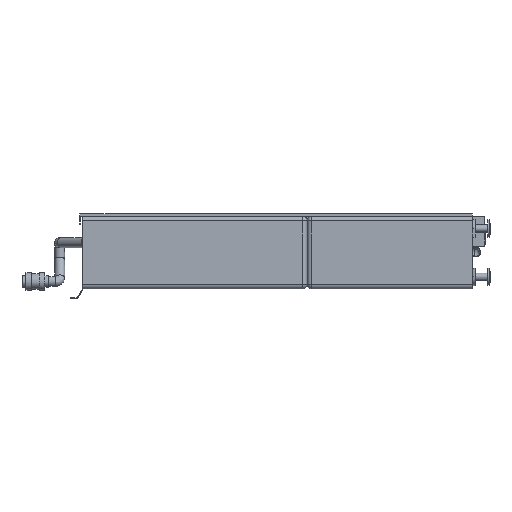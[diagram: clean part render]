
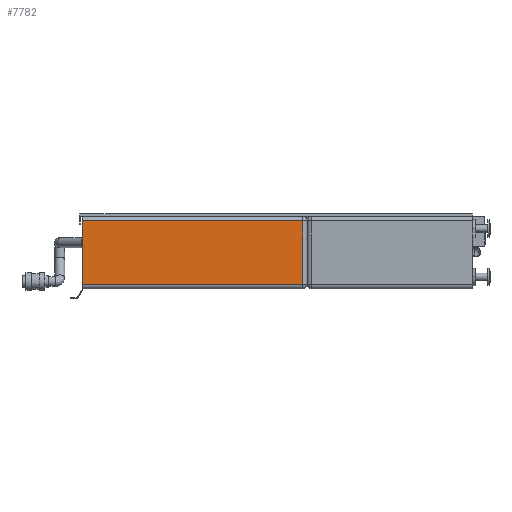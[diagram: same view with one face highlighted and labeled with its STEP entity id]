
A CAD part, left-side view. The second image highlights one B-rep face of the part: STEP entity #7782.
In plain terms, the highlighted planar face has unit normal (-1, 0, 0).
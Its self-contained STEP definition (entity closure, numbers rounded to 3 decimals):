
#838=FACE_OUTER_BOUND('',#1377,.T.);
#1377=EDGE_LOOP('',(#6771,#6772,#6773,#6774));
#2278=LINE('',#13155,#3062);
#2279=LINE('',#13159,#3063);
#2280=LINE('',#13163,#3064);
#2281=LINE('',#13164,#3065);
#3062=VECTOR('',#10142,10.);
#3063=VECTOR('',#10147,10.);
#3064=VECTOR('',#10152,10.);
#3065=VECTOR('',#10153,10.);
#3752=VERTEX_POINT('',#13152);
#3753=VERTEX_POINT('',#13154);
#3754=VERTEX_POINT('',#13158);
#3755=VERTEX_POINT('',#13162);
#4773=EDGE_CURVE('',#3752,#3753,#2278,.T.);
#4775=EDGE_CURVE('',#3753,#3754,#2279,.T.);
#4777=EDGE_CURVE('',#3752,#3755,#2280,.T.);
#4778=EDGE_CURVE('',#3754,#3755,#2281,.T.);
#6771=ORIENTED_EDGE('',*,*,#4773,.F.);
#6772=ORIENTED_EDGE('',*,*,#4777,.T.);
#6773=ORIENTED_EDGE('',*,*,#4778,.F.);
#6774=ORIENTED_EDGE('',*,*,#4775,.F.);
#7360=PLANE('',#8363);
#7782=ADVANCED_FACE('',(#838),#7360,.T.);
#8363=AXIS2_PLACEMENT_3D('',#13161,#10150,#10151);
#10142=DIRECTION('',(0.,1.,0.));
#10147=DIRECTION('',(0.,0.,1.));
#10150=DIRECTION('center_axis',(-1.,0.,0.));
#10151=DIRECTION('ref_axis',(0.,-1.,0.));
#10152=DIRECTION('',(0.,0.,1.));
#10153=DIRECTION('',(0.,-1.,0.));
#13152=CARTESIAN_POINT('',(0.,774.,20.));
#13154=CARTESIAN_POINT('',(0.,1777.,20.));
#13155=CARTESIAN_POINT('',(0.,1332.75,20.));
#13158=CARTESIAN_POINT('',(0.,1777.,310.));
#13159=CARTESIAN_POINT('',(0.,1777.,0.));
#13161=CARTESIAN_POINT('Origin',(0.,1777.,0.));
#13162=CARTESIAN_POINT('',(0.,774.,310.));
#13163=CARTESIAN_POINT('',(0.,774.,20.));
#13164=CARTESIAN_POINT('',(0.,1332.75,310.));
